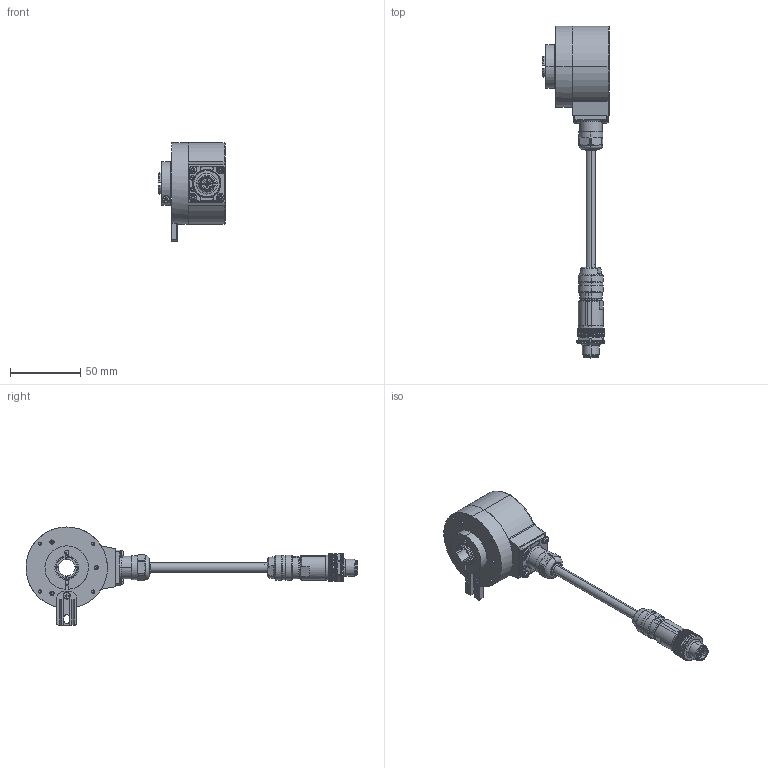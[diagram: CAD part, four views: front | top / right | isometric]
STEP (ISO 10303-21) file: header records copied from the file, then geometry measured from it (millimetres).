
FILE_DESCRIPTION (( 'STEP AP203' ), '1' );
FILE_NAME ('K58I.OXX.XXXXX.XH21512.6XR13.XXXX.step', '2025-12-08T13:53:16', ( '' ), ( '' ), 'SwSTEP 2.0', 'SolidWorks 2021', '' );
FILE_SCHEMA (( 'CONFIG_CONTROL_DESIGN' ));
Length unit declared in the file: millimetre
Products named in the file (1): K58I.OXX.XXXXX.XH21512.6XR13.XXXX
Bounding box: 48 x 236.49 x 69.9 mm (x, y, z)
Volume: 129209.6 mm3; surface area: 48126 mm2
Topology: 23 solids, 23 shells, 1672 faces, 4133 edges, 2535 vertices
Faces by surface type: plane 624, cylinder 597, cone 333, bspline 60, torus 42, sphere 16
Entity records: 52703 total; most frequent: CARTESIAN_POINT 13995, ORIENTED_EDGE 8214, DIRECTION 8010, EDGE_CURVE 4107, AXIS2_PLACEMENT_3D 3162, VERTEX_POINT 2533, EDGE_LOOP 1756, LINE 1686
